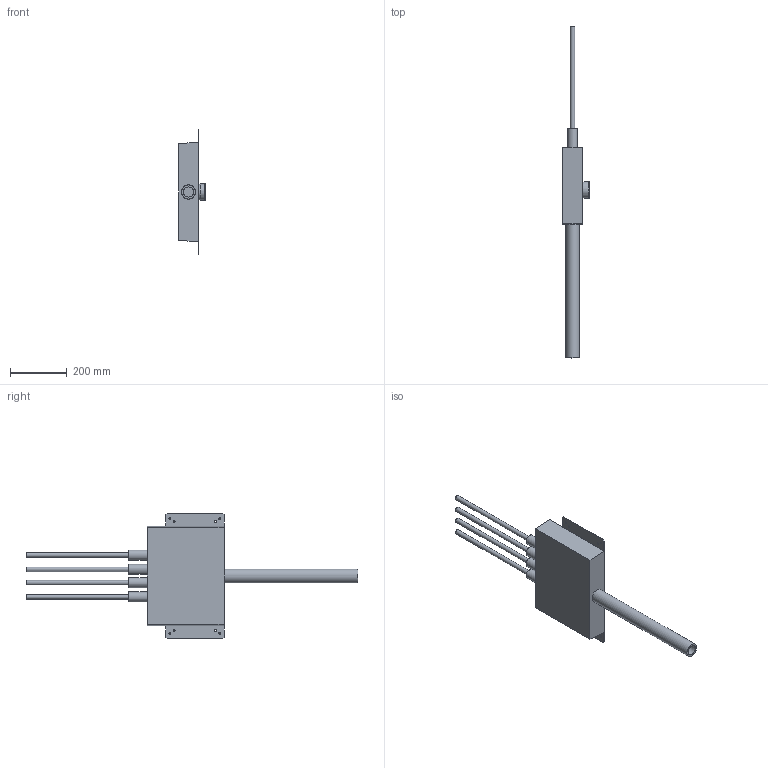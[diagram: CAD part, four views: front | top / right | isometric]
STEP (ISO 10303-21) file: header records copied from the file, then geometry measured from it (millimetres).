
FILE_DESCRIPTION(/* description */ (''),/* implementation_level */ '2;1');
FILE_NAME(/* name */ '\\LG50011\SANHA_Legnica\Engineering\Public\PROJEKTY\SANHA-BOX_Support_BiR\002-Rysunki_Boxów\325WTZTO16\Zespół_325WTZTO16.stp',/* time_stamp */ '2018-11-05T14:37:51+01:00',/* author */ ('gomulka'),/* organization */ (''),/* preprocessor_version */ 'ST-DEVELOPER v16.13',/* originating_system */ 'Autodesk Inventor 2018',/* authorisation */ '');
FILE_SCHEMA (('AUTOMOTIVE_DESIGN { 1 0 10303 214 3 1 1 }'));
Length unit declared in the file: millimetre
Products named in the file (6): Zespół_325WTZTO16; 325WTZTO16; Kolano_DN50-OD50_Master3; Rura_50; Rura_16x2; Plyta1
Assembly tree (9 placements, depth 2):
  Zespół_325WTZTO16
    325WTZTO16
    Kolano_DN50-OD50_Master3
    Rura_50
    Rura_16x2  x4
    Plyta1  x2
Bounding box: 94.56 x 1166.14 x 442 mm (x, y, z)
Volume: 7199883.7 mm3; surface area: 712572.8 mm2
Topology: 9 solids, 9 shells, 168 faces, 373 edges, 248 vertices
Faces by surface type: plane 111, cylinder 38, bspline 16, cone 3
Full cylindrical faces by diameter (mm): 6.1 x4, 7 x4, 14 x4, 16 x8, 18.631 x2, 21 x2, 30 x1, 35 x4, 35.993 x1, 48.5 x1, 50 x1, 52.269 x1, 54 x1, 55 x2, 58 x1, 60 x1
Entity records: 4240 total; most frequent: CARTESIAN_POINT 873, DIRECTION 604, ORIENTED_EDGE 584, EDGE_CURVE 292, EDGE_LOOP 214, VERTEX_POINT 214, LINE 202, VECTOR 202
